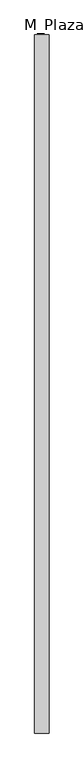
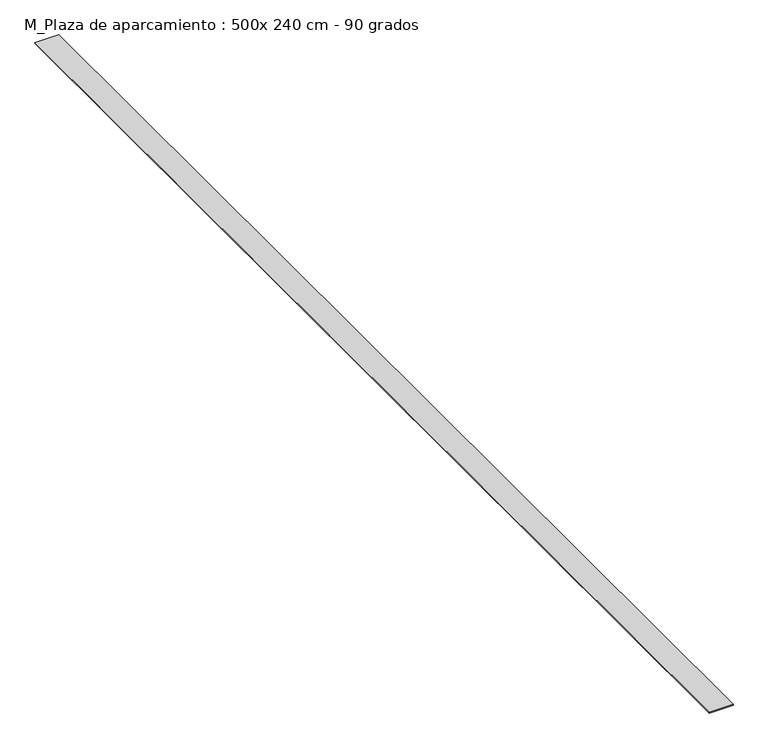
"""IFC4 building model written with IfcOpenShell, lengths in millimetres: proxy geometry, M_Plaza de aparcamiento : 500x 240 cm - 90 grados."""

from ifc_helpers import new_model, si_unit, origin, origin_with_axes, place, context, project, spatial, polyline, outline, extrude, source, transform, mapped, element, save


def m_plaza_de_aparcamiento_500x_240_cm_90_grados_ee1d180e(model_context):
    return source(origin(), model_context, "Body", "SweptSolid", [
        extrude(outline(polyline([(-50.8, 0.0), (50.8, 0.0), (50.8, -5000.0), (-50.8, -5000.0), (-50.8, 0.0)])), origin_with_axes(), (0.0, 0.0, 1.0), 3.175),
    ])


if __name__ == "__main__":
    model = new_model("IFC4")
    model_context = context("Model", 3, world=origin())
    ifc_project = project(units=[si_unit("LENGTHUNIT", "METRE", prefix="MILLI")], contexts=[model_context])
    site = spatial("IfcSite", under=ifc_project)
    building = spatial("IfcBuilding", under=site)
    placement = place(None, origin())
    m_plaza_de_aparcamiento_500x_240_cm_90_grados_shape = m_plaza_de_aparcamiento_500x_240_cm_90_grados_ee1d180e(model_context)
    element("IfcBuildingElementProxy", 1, Name="M_Plaza de aparcamiento : 500x 240 cm - 90 grados", ObjectType="M_Plaza de aparcamiento : 500x 240 cm - 90 grados", at=placement, inside=building, context=model_context, shape_type="MappedRepresentation", body=[
        mapped(m_plaza_de_aparcamiento_500x_240_cm_90_grados_shape, transform((0.0, 0.0, 0.0), x_axis=(1.0, 0.0, 0.0), y_axis=(0.0, 1.0, 0.0), z_axis=(0.0, 0.0, 1.0))),
    ])
    save(model, "model.ifc")
